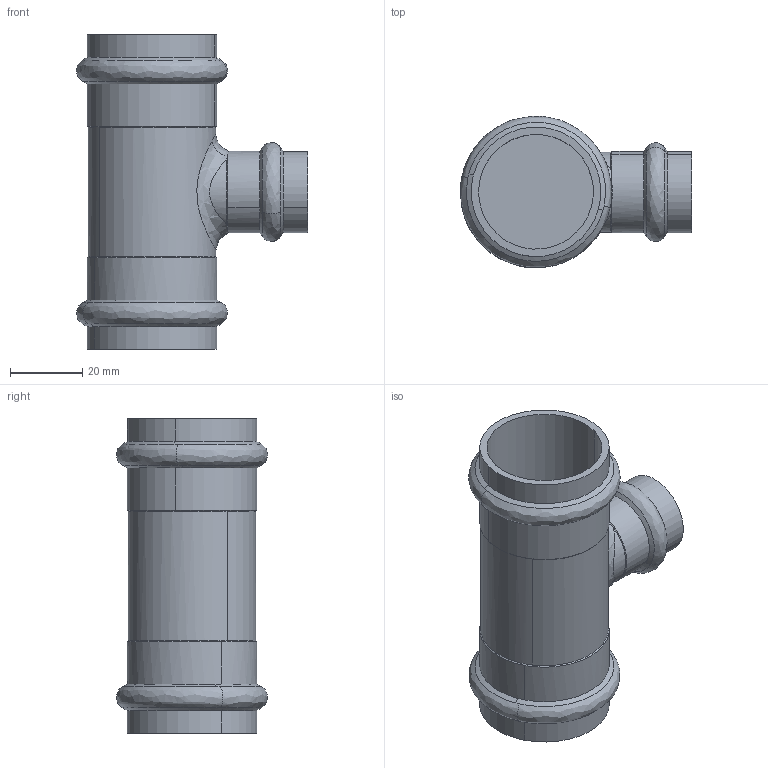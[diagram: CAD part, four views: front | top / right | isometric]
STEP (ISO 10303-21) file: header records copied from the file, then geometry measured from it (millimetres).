
FILE_DESCRIPTION(('STEP AP214'),'1');
FILE_NAME('pim0004523.stp','2015-06-19T05:24:33',('CAD-PIM'),('TransMagic, Inc.'),'TMR11sp0','TransMagic R11',' ');
FILE_SCHEMA(('AUTOMOTIVE_DESIGN'));
Length unit declared in the file: millimetre
Products named in the file (1): pim0004523
Bounding box: 63.91 x 41.81 x 87 mm (x, y, z)
Volume: 55890.6 mm3; surface area: 21007.9 mm2
Topology: 1 solids, 1 shells, 59 faces, 181 edges, 128 vertices
Faces by surface type: cylinder 24, cone 16, bspline 12, plane 7
Entity records: 3739 total; most frequent: CARTESIAN_POINT 1718, ORIENTED_EDGE 362, DIRECTION 294, EDGE_CURVE 181, VERTEX_POINT 128, AXIS2_PLACEMENT_3D 127, CIRCLE 79, EDGE_LOOP 63
